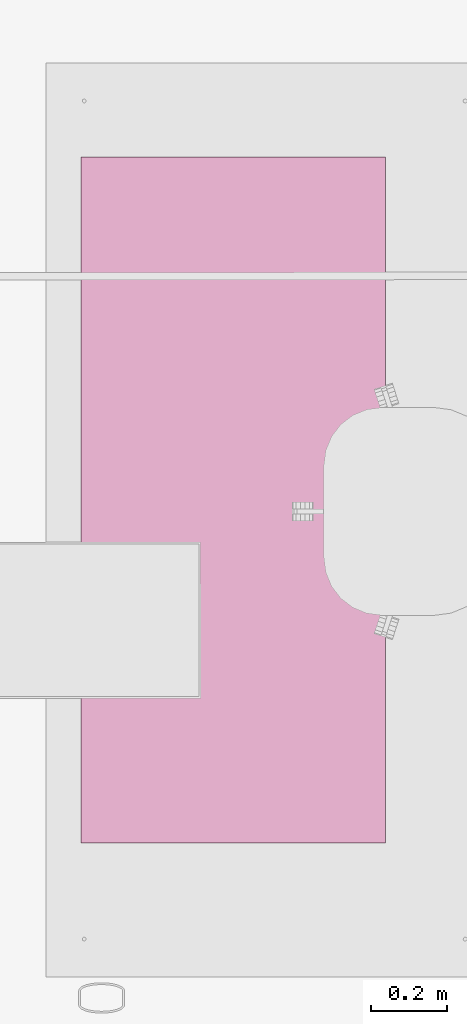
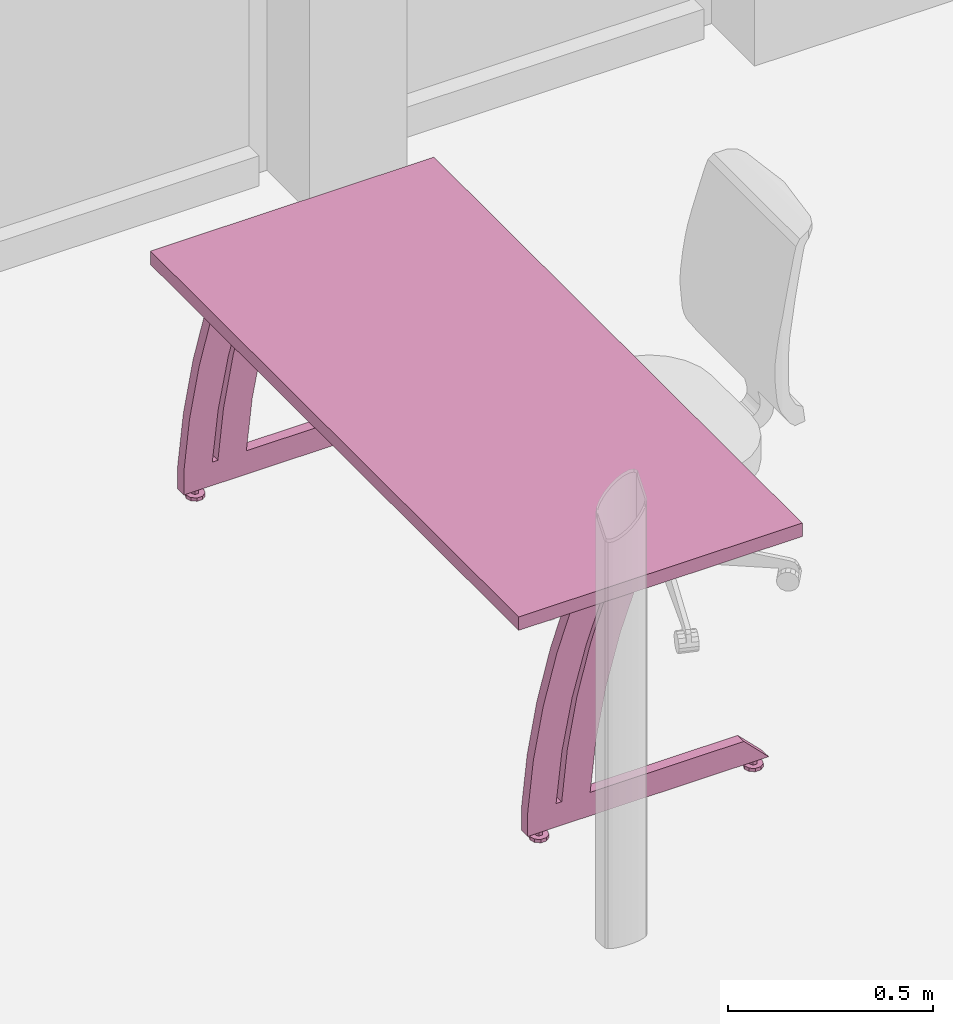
# One storey, part 120 of 128: 1 furnishing.
"""IFC2X3 building model written with IfcOpenShell, lengths in metres."""

from ifc_helpers import new_model, entity, si_unit, converted_unit, derived_unit, direction, frame, origin, place, context, subcontext, project, spatial, faceted_brep, source, transform, mapped, material, type_object, type_shapes, element, save


model = new_model("IFC2X3")

# Units and contexts
model_context = context("Model", 3, precision=1e-05, world=origin(), true_north=direction((6.123031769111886e-17, 1.0)))
body_context = subcontext(model_context, "Body", "Model", "MODEL_VIEW")
ifc_project = project(units=[si_unit("LENGTHUNIT", "METRE"), si_unit("AREAUNIT", "SQUARE_METRE"), converted_unit("PLANEANGLEUNIT", "DEGREE", entity("IfcPlaneAngleMeasure", 0.017453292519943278), si_unit("PLANEANGLEUNIT", "RADIAN"), dimensions=[0, 0, 0, 0, 0, 0, 0]), derived_unit("THERMALTRANSMITTANCEUNIT", [(si_unit("MASSUNIT", "GRAM", prefix="KILO"), 1), (si_unit("THERMODYNAMICTEMPERATUREUNIT", "KELVIN"), -1), (si_unit("TIMEUNIT", "SECOND"), -3)])], contexts=[model_context])

# Site, building, storey
site_placement = place(None, origin())
site = spatial("IfcSite", under=ifc_project, at=site_placement, Name="Default", CompositionType="ELEMENT")
building_placement = place(site_placement, origin())
building = spatial("IfcBuilding", under=site, at=building_placement, CompositionType="ELEMENT")
storey_placement = place(building_placement, origin())
storey = spatial("IfcBuildingStorey", under=building, at=storey_placement, Name="00_RDC CAF", CompositionType="ELEMENT", Elevation=2.4982504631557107e-13)

# Furnishing
ifc_material = material(Name="ARC - Mo - Blanc")
furniture_type = type_object("IfcFurnitureType", Name="Mo_Bureau:Mo_Bureau_1800x800mm", AssemblyPlace="NOTDEFINED", material=ifc_material)
shared_shape = source(origin(), body_context, "Body", "Brep", [
    faceted_brep([(0.05999999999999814, -0.6962325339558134, 0.0), (0.03622358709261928, -0.6885071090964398, 0.0), (0.04076447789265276, -0.6822571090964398, 0.0), (0.04530536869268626, -0.6760071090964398, 0.0), (0.05265268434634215, -0.6736198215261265, 0.0), (0.059999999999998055, -0.6712325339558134, 0.0), (0.06734731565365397, -0.6736198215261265, 0.0), (0.03622358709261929, -0.6962325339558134, 0.0), (0.03622358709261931, -0.7039579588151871, 0.0), (0.04076447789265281, -0.7102079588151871, 0.0), (0.045305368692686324, -0.7164579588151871, 0.0), (0.05265268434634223, -0.7188452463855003, 0.0), (0.05999999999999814, -0.7212325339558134, 0.0), (0.07469463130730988, -0.6760071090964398, 0.0), (0.07923552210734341, -0.6822571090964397, 0.0), (0.08377641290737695, -0.6885071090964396, 0.0), (0.08377641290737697, -0.6962325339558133, 0.0), (0.0673473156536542, -0.7188452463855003, 0.0), (0.07469463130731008, -0.716457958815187, 0.0), (0.07923552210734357, -0.7102079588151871, 0.0), (0.08377641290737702, -0.703957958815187, 0.0), (0.05999999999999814, -0.6962325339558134, 0.024999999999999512), (0.0599999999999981, -0.6862325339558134, 0.024999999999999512), (0.05133974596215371, -0.6912325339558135, 0.024999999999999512), (0.05133974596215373, -0.7012325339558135, 0.024999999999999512), (0.05999999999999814, -0.7062325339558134, 0.024999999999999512), (0.06866025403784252, -0.6912325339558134, 0.024999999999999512), (0.06866025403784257, -0.7012325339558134, 0.024999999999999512), (0.05133974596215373, -0.7012325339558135, 0.010000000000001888), (0.05999999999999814, -0.7062325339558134, 0.010000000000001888), (0.05133974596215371, -0.6912325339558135, 0.010000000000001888), (0.05999999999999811, -0.6862325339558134, 0.010000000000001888), (0.06866025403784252, -0.6912325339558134, 0.010000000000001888), (0.06866025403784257, -0.7012325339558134, 0.010000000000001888), (0.05999999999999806, -0.6712325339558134, 0.010000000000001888), (0.0555460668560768, -0.6726797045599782, 0.010000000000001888), (0.051092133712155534, -0.6741268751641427, 0.010000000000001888), (0.04530536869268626, -0.6760071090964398, 0.010000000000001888), (0.06734731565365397, -0.6736198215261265, 0.010000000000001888), (0.07469463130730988, -0.6760071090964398, 0.010000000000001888), (0.07923552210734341, -0.6822571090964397, 0.010000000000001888), (0.08377641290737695, -0.6885071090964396, 0.010000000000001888), (0.08377641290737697, -0.6962325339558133, 0.010000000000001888), (0.08377641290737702, -0.703957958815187, 0.010000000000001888), (0.07923552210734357, -0.7102079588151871, 0.010000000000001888), (0.07469463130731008, -0.716457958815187, 0.010000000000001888), (0.06890786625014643, -0.7183381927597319, 0.010000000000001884), (0.06445393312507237, -0.7197853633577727, 0.010000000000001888), (0.05999999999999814, -0.7212325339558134, 0.010000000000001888), (0.05265268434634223, -0.7188452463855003, 0.010000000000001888), (0.045305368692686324, -0.7164579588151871, 0.010000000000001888), (0.03622358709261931, -0.7039579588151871, 0.010000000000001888), (0.04076447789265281, -0.7102079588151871, 0.010000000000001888), (0.04076447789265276, -0.6822571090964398, 0.010000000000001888), (0.03622358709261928, -0.6885071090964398, 0.010000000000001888), (0.03622358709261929, -0.6962325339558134, 0.010000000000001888)], [[[0, 1, 2]], [[0, 2, 3]], [[0, 3, 4]], [[0, 4, 5]], [[0, 5, 6]], [[0, 7, 1]], [[0, 8, 7]], [[0, 9, 8]], [[0, 10, 9]], [[0, 11, 10]], [[0, 12, 11]], [[0, 6, 13]], [[0, 13, 14]], [[0, 14, 15]], [[0, 15, 16]], [[0, 17, 12]], [[0, 18, 17]], [[0, 19, 18]], [[0, 20, 19]], [[0, 16, 20]], [[21, 22, 23]], [[23, 24, 21]], [[24, 25, 21]], [[21, 26, 22]], [[25, 27, 21]], [[26, 21, 27]], [[25, 24, 28, 29]], [[24, 23, 30, 28]], [[23, 22, 31, 30]], [[22, 26, 32, 31]], [[26, 27, 33, 32]], [[27, 25, 29, 33]], [[31, 34, 35]], [[31, 35, 36]], [[31, 36, 37]], [[31, 37, 30]], [[31, 38, 34]], [[31, 39, 38]], [[32, 39, 31]], [[32, 40, 39]], [[32, 41, 40]], [[32, 42, 41]], [[32, 43, 42]], [[32, 33, 43]], [[33, 44, 43]], [[33, 45, 44]], [[33, 29, 45]], [[29, 46, 45]], [[29, 47, 46]], [[29, 48, 47]], [[29, 49, 48]], [[29, 50, 49]], [[29, 28, 50]], [[30, 51, 28]], [[28, 51, 52]], [[28, 52, 50]], [[30, 37, 53]], [[30, 53, 54]], [[30, 54, 55]], [[30, 55, 51]], [[11, 12, 48, 49, 50, 10]], [[8, 9, 10, 50, 52, 51]], [[7, 8, 51, 55, 54, 1]], [[3, 37, 36, 35, 34, 5, 4]], [[54, 53, 37, 3, 2, 1]], [[6, 5, 34, 38, 39, 13]], [[15, 14, 13, 39, 40, 41]], [[16, 15, 41, 42, 43, 20]], [[18, 45, 46, 47, 48, 12, 17]], [[43, 44, 45, 18, 19, 20]]]),
    faceted_brep([(0.05999999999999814, -0.09132706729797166, 0.0), (0.03622358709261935, -0.08360164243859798, 0.0), (0.04076447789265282, -0.07735164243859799, 0.0), (0.0453053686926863, -0.07110164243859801, 0.0), (0.05265268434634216, -0.06871435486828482, 0.0), (0.059999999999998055, -0.06632706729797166, 0.0), (0.06734731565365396, -0.06871435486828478, 0.0), (0.03622358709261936, -0.09132706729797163, 0.0), (0.03622358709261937, -0.09905249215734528, 0.0), (0.04076447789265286, -0.10530249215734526, 0.0), (0.04530536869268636, -0.11155249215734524, 0.0), (0.05265268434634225, -0.11393977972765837, 0.0), (0.05999999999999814, -0.11632706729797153, 0.0), (0.07469463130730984, -0.0711016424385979, 0.0), (0.07923552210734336, -0.07735164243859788, 0.0), (0.08377641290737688, -0.08360164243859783, 0.0), (0.0837764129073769, -0.09132706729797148, 0.0), (0.06734731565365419, -0.11393977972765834, 0.0), (0.07469463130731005, -0.11155249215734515, 0.0), (0.07923552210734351, -0.10530249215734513, 0.0), (0.08377641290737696, -0.09905249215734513, 0.0), (0.05999999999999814, -0.09132706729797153, 0.024999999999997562), (0.0599999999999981, -0.08132706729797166, 0.024999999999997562), (0.05133974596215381, -0.08632706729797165, 0.024999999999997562), (0.05133974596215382, -0.09632706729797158, 0.024999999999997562), (0.05999999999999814, -0.10132706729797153, 0.024999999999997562), (0.06866025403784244, -0.0863270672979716, 0.024999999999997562), (0.06866025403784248, -0.09632706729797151, 0.024999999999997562), (0.05133974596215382, -0.09632706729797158, 0.009999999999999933), (0.05999999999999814, -0.10132706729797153, 0.009999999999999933), (0.05133974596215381, -0.08632706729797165, 0.009999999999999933), (0.05999999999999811, -0.08132706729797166, 0.009999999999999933), (0.06866025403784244, -0.0863270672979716, 0.009999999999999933), (0.06866025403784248, -0.09632706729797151, 0.009999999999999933), (0.05999999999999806, -0.06632706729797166, 0.009999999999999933), (0.055546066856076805, -0.06777423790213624, 0.00999999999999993), (0.051092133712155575, -0.06922140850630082, 0.00999999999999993), (0.0453053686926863, -0.07110164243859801, 0.009999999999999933), (0.06734731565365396, -0.06871435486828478, 0.00999999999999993), (0.07469463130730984, -0.0711016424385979, 0.009999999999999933), (0.07923552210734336, -0.07735164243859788, 0.00999999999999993), (0.08377641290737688, -0.08360164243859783, 0.009999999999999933), (0.0837764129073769, -0.09132706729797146, 0.00999999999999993), (0.08377641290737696, -0.09905249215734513, 0.009999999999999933), (0.07923552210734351, -0.10530249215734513, 0.00999999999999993), (0.07469463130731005, -0.11155249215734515, 0.009999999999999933), (0.0689078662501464, -0.11343272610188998, 0.00999999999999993), (0.06445393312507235, -0.11487989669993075, 0.00999999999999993), (0.05999999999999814, -0.11632706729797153, 0.009999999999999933), (0.05265268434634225, -0.11393977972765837, 0.00999999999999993), (0.04530536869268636, -0.11155249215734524, 0.009999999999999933), (0.03622358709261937, -0.09905249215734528, 0.009999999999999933), (0.04076447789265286, -0.10530249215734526, 0.00999999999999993), (0.04076447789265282, -0.07735164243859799, 0.00999999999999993), (0.03622358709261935, -0.08360164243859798, 0.009999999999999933), (0.03622358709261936, -0.09132706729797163, 0.00999999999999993)], [[[0, 1, 2]], [[0, 2, 3]], [[0, 3, 4]], [[0, 4, 5]], [[0, 5, 6]], [[0, 7, 1]], [[0, 8, 7]], [[0, 9, 8]], [[0, 10, 9]], [[0, 11, 10]], [[0, 12, 11]], [[0, 6, 13]], [[0, 13, 14]], [[0, 14, 15]], [[0, 15, 16]], [[0, 17, 12]], [[0, 18, 17]], [[0, 19, 18]], [[0, 20, 19]], [[0, 16, 20]], [[21, 22, 23]], [[23, 24, 21]], [[24, 25, 21]], [[21, 26, 22]], [[25, 27, 21]], [[26, 21, 27]], [[25, 24, 28, 29]], [[24, 23, 30, 28]], [[23, 22, 31, 30]], [[22, 26, 32, 31]], [[26, 27, 33, 32]], [[27, 25, 29, 33]], [[31, 34, 35]], [[31, 35, 36]], [[31, 36, 37]], [[31, 37, 30]], [[31, 38, 34]], [[31, 39, 38]], [[32, 39, 31]], [[32, 40, 39]], [[32, 41, 40]], [[32, 42, 41]], [[32, 43, 42]], [[32, 33, 43]], [[33, 44, 43]], [[33, 45, 44]], [[33, 29, 45]], [[29, 46, 45]], [[29, 47, 46]], [[29, 48, 47]], [[29, 49, 48]], [[29, 50, 49]], [[29, 28, 50]], [[30, 51, 28]], [[28, 51, 52]], [[28, 52, 50]], [[30, 37, 53]], [[30, 53, 54]], [[30, 54, 55]], [[30, 55, 51]], [[11, 12, 48, 49, 50, 10]], [[8, 9, 10, 50, 52, 51]], [[7, 8, 51, 55, 54, 1]], [[3, 37, 36, 35, 34, 5, 4]], [[54, 53, 37, 3, 2, 1]], [[6, 5, 34, 38, 39, 13]], [[15, 14, 13, 39, 40, 41]], [[16, 15, 41, 42, 43, 20]], [[18, 45, 46, 47, 48, 12, 17]], [[43, 44, 45, 18, 19, 20]]]),
    faceted_brep([(0.04499999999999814, -0.22742160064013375, 0.09500000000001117), (0.04499999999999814, -0.24409269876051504, 0.24614112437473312), (0.04499999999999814, -0.2727144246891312, 0.3954808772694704), (0.04499999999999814, -0.313105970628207, 0.542075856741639), (0.04499999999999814, -0.36501217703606, 0.684999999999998), (0.04499999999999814, -0.27887211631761, 0.6849999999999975), (0.04499999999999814, -0.22919246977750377, 0.5416912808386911), (0.04499999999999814, -0.19055436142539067, 0.39501969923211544), (0.04499999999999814, -0.1631815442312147, 0.24583462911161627), (0.04499999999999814, -0.14723253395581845, 0.09500000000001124), (0.07499999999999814, -0.3650121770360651, 0.6850000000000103), (0.07499999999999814, -0.313105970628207, 0.542075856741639), (0.07499999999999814, -0.2727144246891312, 0.3954808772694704), (0.07499999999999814, -0.24409269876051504, 0.24614112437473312), (0.07499999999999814, -0.22742160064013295, 0.09499999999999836), (0.07499999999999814, -0.14723253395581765, 0.09499999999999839), (0.07499999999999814, -0.1631815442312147, 0.24583462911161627), (0.07499999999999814, -0.19055436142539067, 0.39501969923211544), (0.07499999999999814, -0.22919246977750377, 0.5416912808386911), (0.07499999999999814, -0.2788721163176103, 0.684999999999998)], [[[0, 1, 2, 3, 4, 5, 6, 7, 8, 9]], [[10, 11, 12, 13, 14, 15, 16, 17, 18, 19]], [[10, 19, 5, 4]], [[3, 11, 10, 4]], [[2, 12, 11, 3]], [[0, 14, 13, 1]], [[12, 2, 1, 13]], [[15, 14, 0, 9]], [[8, 7, 17, 16]], [[15, 9, 8, 16]], [[6, 5, 19, 18]], [[6, 18, 17, 7]]]),
    faceted_brep([(0.04499999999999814, -0.1314216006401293, 0.09500000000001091), (0.04499999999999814, -0.1480926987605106, 0.24614112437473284), (0.04499999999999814, -0.17671442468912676, 0.3954808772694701), (0.04499999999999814, -0.21710597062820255, 0.5420758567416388), (0.04499999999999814, -0.2690121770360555, 0.6849999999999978), (0.04499999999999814, -0.18287211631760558, 0.6849999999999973), (0.04499999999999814, -0.13319246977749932, 0.5416912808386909), (0.04499999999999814, -0.09455436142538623, 0.39501969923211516), (0.04499999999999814, -0.06718154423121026, 0.24583462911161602), (0.04499999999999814, -0.05123253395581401, 0.09500000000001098), (0.07499999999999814, -0.2690121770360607, 0.6850000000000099), (0.07499999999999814, -0.21710597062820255, 0.5420758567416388), (0.07499999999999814, -0.17671442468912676, 0.3954808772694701), (0.07499999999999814, -0.1480926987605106, 0.24614112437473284), (0.07499999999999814, -0.1314216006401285, 0.09499999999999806), (0.07499999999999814, -0.051232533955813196, 0.09499999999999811), (0.07499999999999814, -0.06718154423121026, 0.24583462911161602), (0.07499999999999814, -0.09455436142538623, 0.39501969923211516), (0.07499999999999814, -0.13319246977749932, 0.5416912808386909), (0.07499999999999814, -0.18287211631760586, 0.6849999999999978)], [[[0, 1, 2, 3, 4, 5, 6, 7, 8, 9]], [[10, 11, 12, 13, 14, 15, 16, 17, 18, 19]], [[10, 19, 5, 4]], [[3, 11, 10, 4]], [[2, 12, 11, 3]], [[0, 14, 13, 1]], [[12, 2, 1, 13]], [[15, 14, 0, 9]], [[8, 7, 17, 16]], [[15, 9, 8, 16]], [[6, 5, 19, 18]], [[6, 18, 17, 7]]]),
    faceted_brep([(0.04499999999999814, -0.05123253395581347, 0.024999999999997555), (0.04499999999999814, -0.7312325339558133, 0.024999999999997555), (0.04499999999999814, -0.6612325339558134, 0.09499999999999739), (0.04499999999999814, -0.05123253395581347, 0.09499999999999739), (0.07499999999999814, -0.05123253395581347, 0.024999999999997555), (0.07499999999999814, -0.05123253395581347, 0.09499999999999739), (0.07499999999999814, -0.6612325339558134, 0.09499999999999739), (0.07499999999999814, -0.7312325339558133, 0.024999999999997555)], [[[0, 1, 2, 3]], [[4, 5, 6, 7]], [[5, 4, 0, 3]], [[6, 5, 3, 2]], [[4, 7, 1, 0]], [[7, 6, 2, 1]]]),
    faceted_brep([(1.7399999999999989, -0.6962325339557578, 0.0), (1.7162235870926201, -0.6885071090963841, 0.0), (1.7207644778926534, -0.682257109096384, 0.0), (1.725305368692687, -0.6760071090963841, 0.0), (1.732652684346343, -0.6736198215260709, 0.0), (1.7399999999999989, -0.6712325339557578, 0.0), (1.7473473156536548, -0.6736198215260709, 0.0), (1.7162235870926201, -0.6962325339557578, 0.0), (1.7162235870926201, -0.7039579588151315, 0.0), (1.7207644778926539, -0.7102079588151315, 0.0), (1.7253053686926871, -0.7164579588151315, 0.0), (1.732652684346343, -0.7188452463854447, 0.0), (1.7399999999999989, -0.7212325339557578, 0.0), (1.7546946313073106, -0.6760071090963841, 0.0), (1.759235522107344, -0.682257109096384, 0.0), (1.7637764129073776, -0.688507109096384, 0.0), (1.7637764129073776, -0.6962325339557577, 0.0), (1.747347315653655, -0.7188452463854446, 0.0), (1.7546946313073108, -0.7164579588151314, 0.0), (1.7592355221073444, -0.7102079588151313, 0.0), (1.7637764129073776, -0.7039579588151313, 0.0), (1.7399999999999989, -0.6962325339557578, 0.024999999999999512), (1.7399999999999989, -0.6862325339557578, 0.024999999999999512), (1.7313397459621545, -0.6912325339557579, 0.024999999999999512), (1.7313397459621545, -0.7012325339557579, 0.024999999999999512), (1.7399999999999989, -0.7062325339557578, 0.024999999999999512), (1.7486602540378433, -0.6912325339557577, 0.024999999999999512), (1.7486602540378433, -0.7012325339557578, 0.024999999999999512), (1.7313397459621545, -0.7012325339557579, 0.010000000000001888), (1.7399999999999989, -0.7062325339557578, 0.010000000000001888), (1.7313397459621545, -0.6912325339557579, 0.010000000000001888), (1.7399999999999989, -0.6862325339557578, 0.010000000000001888), (1.7486602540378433, -0.6912325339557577, 0.010000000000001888), (1.7486602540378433, -0.7012325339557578, 0.010000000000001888), (1.7399999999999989, -0.6712325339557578, 0.010000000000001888), (1.7355460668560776, -0.6726797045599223, 0.010000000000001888), (1.7310921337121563, -0.6741268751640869, 0.010000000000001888), (1.725305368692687, -0.6760071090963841, 0.010000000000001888), (1.7473473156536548, -0.6736198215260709, 0.010000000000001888), (1.7546946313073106, -0.6760071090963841, 0.010000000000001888), (1.759235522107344, -0.682257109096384, 0.010000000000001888), (1.7637764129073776, -0.688507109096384, 0.010000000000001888), (1.7637764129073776, -0.6962325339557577, 0.010000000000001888), (1.7637764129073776, -0.7039579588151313, 0.010000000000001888), (1.7592355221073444, -0.7102079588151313, 0.010000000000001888), (1.7546946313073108, -0.7164579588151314, 0.010000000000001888), (1.7489078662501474, -0.7183381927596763, 0.010000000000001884), (1.7444539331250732, -0.719785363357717, 0.010000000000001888), (1.7399999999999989, -0.7212325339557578, 0.010000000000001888), (1.732652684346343, -0.7188452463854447, 0.010000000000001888), (1.7253053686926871, -0.7164579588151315, 0.010000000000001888), (1.7162235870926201, -0.7039579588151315, 0.010000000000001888), (1.7207644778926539, -0.7102079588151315, 0.010000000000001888), (1.7207644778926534, -0.682257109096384, 0.010000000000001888), (1.7162235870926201, -0.6885071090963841, 0.010000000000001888), (1.7162235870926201, -0.6962325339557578, 0.010000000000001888)], [[[0, 1, 2]], [[0, 2, 3]], [[0, 3, 4]], [[0, 4, 5]], [[0, 5, 6]], [[0, 7, 1]], [[0, 8, 7]], [[0, 9, 8]], [[0, 10, 9]], [[0, 11, 10]], [[0, 12, 11]], [[0, 6, 13]], [[0, 13, 14]], [[0, 14, 15]], [[0, 15, 16]], [[0, 17, 12]], [[0, 18, 17]], [[0, 19, 18]], [[0, 20, 19]], [[0, 16, 20]], [[21, 22, 23]], [[23, 24, 21]], [[24, 25, 21]], [[21, 26, 22]], [[25, 27, 21]], [[26, 21, 27]], [[25, 24, 28, 29]], [[24, 23, 30, 28]], [[23, 22, 31, 30]], [[22, 26, 32, 31]], [[26, 27, 33, 32]], [[27, 25, 29, 33]], [[31, 34, 35]], [[31, 35, 36]], [[31, 36, 37]], [[31, 37, 30]], [[31, 38, 34]], [[31, 39, 38]], [[32, 39, 31]], [[32, 40, 39]], [[32, 41, 40]], [[32, 42, 41]], [[32, 43, 42]], [[32, 33, 43]], [[33, 44, 43]], [[33, 45, 44]], [[33, 29, 45]], [[29, 46, 45]], [[29, 47, 46]], [[29, 48, 47]], [[29, 49, 48]], [[29, 50, 49]], [[29, 28, 50]], [[30, 51, 28]], [[28, 51, 52]], [[28, 52, 50]], [[30, 37, 53]], [[30, 53, 54]], [[30, 54, 55]], [[30, 55, 51]], [[11, 12, 48, 49, 50, 10]], [[8, 9, 10, 50, 52, 51]], [[7, 8, 51, 55, 54, 1]], [[3, 37, 36, 35, 34, 5, 4]], [[54, 53, 37, 3, 2, 1]], [[6, 5, 34, 38, 39, 13]], [[15, 14, 13, 39, 40, 41]], [[16, 15, 41, 42, 43, 20]], [[18, 45, 46, 47, 48, 12, 17]], [[43, 44, 45, 18, 19, 20]]]),
    faceted_brep([(1.7399999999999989, -0.09132706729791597, 0.0), (1.7162235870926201, -0.08360164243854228, 0.0), (1.7207644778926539, -0.0773516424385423, 0.0), (1.7253053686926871, -0.0711016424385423, 0.0), (1.732652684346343, -0.06871435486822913, 0.0), (1.7399999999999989, -0.06632706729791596, 0.0), (1.7473473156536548, -0.06871435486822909, 0.0), (1.7162235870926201, -0.09132706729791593, 0.0), (1.7162235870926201, -0.09905249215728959, 0.0), (1.7207644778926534, -0.10530249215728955, 0.0), (1.7253053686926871, -0.11155249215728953, 0.0), (1.732652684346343, -0.11393977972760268, 0.0), (1.7399999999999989, -0.11632706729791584, 0.0), (1.7546946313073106, -0.07110164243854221, 0.0), (1.759235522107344, -0.07735164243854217, 0.0), (1.7637764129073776, -0.08360164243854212, 0.0), (1.7637764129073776, -0.09132706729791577, 0.0), (1.747347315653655, -0.11393977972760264, 0.0), (1.7546946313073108, -0.11155249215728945, 0.0), (1.7592355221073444, -0.10530249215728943, 0.0), (1.7637764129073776, -0.09905249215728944, 0.0), (1.7399999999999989, -0.09132706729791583, 0.024999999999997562), (1.7399999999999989, -0.08132706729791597, 0.024999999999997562), (1.7313397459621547, -0.08632706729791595, 0.024999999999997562), (1.7313397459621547, -0.09632706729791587, 0.024999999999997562), (1.7399999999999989, -0.10132706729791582, 0.024999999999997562), (1.748660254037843, -0.0863270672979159, 0.024999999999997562), (1.748660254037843, -0.0963270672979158, 0.024999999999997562), (1.7313397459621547, -0.09632706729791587, 0.009999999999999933), (1.7399999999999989, -0.10132706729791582, 0.009999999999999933), (1.7313397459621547, -0.08632706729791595, 0.009999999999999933), (1.7399999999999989, -0.08132706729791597, 0.009999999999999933), (1.748660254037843, -0.0863270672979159, 0.009999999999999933), (1.748660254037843, -0.0963270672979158, 0.009999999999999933), (1.7399999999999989, -0.06632706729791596, 0.009999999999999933), (1.7355460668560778, -0.06777423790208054, 0.00999999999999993), (1.7310921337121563, -0.06922140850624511, 0.00999999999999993), (1.7253053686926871, -0.0711016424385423, 0.009999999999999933), (1.7473473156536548, -0.06871435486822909, 0.00999999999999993), (1.7546946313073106, -0.07110164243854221, 0.009999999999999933), (1.759235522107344, -0.07735164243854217, 0.00999999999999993), (1.7637764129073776, -0.08360164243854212, 0.009999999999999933), (1.7637764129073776, -0.09132706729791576, 0.00999999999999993), (1.7637764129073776, -0.09905249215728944, 0.009999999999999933), (1.7592355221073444, -0.10530249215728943, 0.00999999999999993), (1.7546946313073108, -0.11155249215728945, 0.009999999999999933), (1.7489078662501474, -0.11343272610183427, 0.00999999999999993), (1.7444539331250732, -0.11487989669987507, 0.00999999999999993), (1.7399999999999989, -0.11632706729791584, 0.009999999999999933), (1.732652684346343, -0.11393977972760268, 0.00999999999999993), (1.7253053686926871, -0.11155249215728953, 0.009999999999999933), (1.7162235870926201, -0.09905249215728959, 0.009999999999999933), (1.7207644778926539, -0.10530249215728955, 0.00999999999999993), (1.7207644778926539, -0.0773516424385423, 0.00999999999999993), (1.7162235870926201, -0.08360164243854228, 0.009999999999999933), (1.7162235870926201, -0.09132706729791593, 0.00999999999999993)], [[[0, 1, 2]], [[0, 2, 3]], [[0, 3, 4]], [[0, 4, 5]], [[0, 5, 6]], [[0, 7, 1]], [[0, 8, 7]], [[0, 9, 8]], [[0, 10, 9]], [[0, 11, 10]], [[0, 12, 11]], [[0, 6, 13]], [[0, 13, 14]], [[0, 14, 15]], [[0, 15, 16]], [[0, 17, 12]], [[0, 18, 17]], [[0, 19, 18]], [[0, 20, 19]], [[0, 16, 20]], [[21, 22, 23]], [[23, 24, 21]], [[24, 25, 21]], [[21, 26, 22]], [[25, 27, 21]], [[26, 21, 27]], [[25, 24, 28, 29]], [[24, 23, 30, 28]], [[23, 22, 31, 30]], [[22, 26, 32, 31]], [[26, 27, 33, 32]], [[27, 25, 29, 33]], [[31, 34, 35]], [[31, 35, 36]], [[31, 36, 37]], [[31, 37, 30]], [[31, 38, 34]], [[31, 39, 38]], [[32, 39, 31]], [[32, 40, 39]], [[32, 41, 40]], [[32, 42, 41]], [[32, 43, 42]], [[32, 33, 43]], [[33, 44, 43]], [[33, 45, 44]], [[33, 29, 45]], [[29, 46, 45]], [[29, 47, 46]], [[29, 48, 47]], [[29, 49, 48]], [[29, 50, 49]], [[29, 28, 50]], [[30, 51, 28]], [[28, 51, 52]], [[28, 52, 50]], [[30, 37, 53]], [[30, 53, 54]], [[30, 54, 55]], [[30, 55, 51]], [[11, 12, 48, 49, 50, 10]], [[8, 9, 10, 50, 52, 51]], [[7, 8, 51, 55, 54, 1]], [[3, 37, 36, 35, 34, 5, 4]], [[54, 53, 37, 3, 2, 1]], [[6, 5, 34, 38, 39, 13]], [[15, 14, 13, 39, 40, 41]], [[16, 15, 41, 42, 43, 20]], [[18, 45, 46, 47, 48, 12, 17]], [[43, 44, 45, 18, 19, 20]]]),
    faceted_brep([(1.7249999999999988, -0.22742160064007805, 0.09500000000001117), (1.7249999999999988, -0.24409269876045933, 0.24614112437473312), (1.7249999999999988, -0.27271442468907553, 0.3954808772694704), (1.7249999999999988, -0.31310597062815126, 0.542075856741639), (1.7249999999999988, -0.36501217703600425, 0.684999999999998), (1.7249999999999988, -0.2788721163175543, 0.6849999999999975), (1.7249999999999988, -0.22919246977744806, 0.5416912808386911), (1.7249999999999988, -0.19055436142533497, 0.39501969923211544), (1.7249999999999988, -0.163181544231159, 0.24583462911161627), (1.7249999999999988, -0.14723253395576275, 0.09500000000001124), (1.754999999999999, -0.3650121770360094, 0.6850000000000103), (1.754999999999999, -0.31310597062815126, 0.542075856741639), (1.754999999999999, -0.27271442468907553, 0.3954808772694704), (1.754999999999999, -0.24409269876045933, 0.24614112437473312), (1.754999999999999, -0.22742160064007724, 0.09499999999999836), (1.754999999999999, -0.14723253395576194, 0.09499999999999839), (1.754999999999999, -0.163181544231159, 0.24583462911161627), (1.754999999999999, -0.19055436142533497, 0.39501969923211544), (1.754999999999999, -0.22919246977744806, 0.5416912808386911), (1.754999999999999, -0.2788721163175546, 0.684999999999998)], [[[0, 1, 2, 3, 4, 5, 6, 7, 8, 9]], [[10, 11, 12, 13, 14, 15, 16, 17, 18, 19]], [[10, 19, 5, 4]], [[3, 11, 10, 4]], [[2, 12, 11, 3]], [[0, 14, 13, 1]], [[12, 2, 1, 13]], [[15, 14, 0, 9]], [[8, 7, 17, 16]], [[15, 9, 8, 16]], [[6, 5, 19, 18]], [[6, 18, 17, 7]]]),
    faceted_brep([(1.7249999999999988, -0.13142160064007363, 0.09500000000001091), (1.7249999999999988, -0.1480926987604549, 0.24614112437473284), (1.7249999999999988, -0.17671442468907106, 0.3954808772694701), (1.7249999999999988, -0.21710597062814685, 0.5420758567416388), (1.7249999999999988, -0.26901217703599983, 0.6849999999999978), (1.7249999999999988, -0.18287211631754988, 0.6849999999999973), (1.7249999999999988, -0.13319246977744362, 0.5416912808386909), (1.7249999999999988, -0.09455436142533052, 0.39501969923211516), (1.7249999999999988, -0.06718154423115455, 0.24583462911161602), (1.7249999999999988, -0.05123253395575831, 0.09500000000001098), (1.754999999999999, -0.26901217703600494, 0.6850000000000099), (1.754999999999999, -0.21710597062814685, 0.5420758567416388), (1.754999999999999, -0.17671442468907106, 0.3954808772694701), (1.754999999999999, -0.1480926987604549, 0.24614112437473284), (1.754999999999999, -0.1314216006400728, 0.09499999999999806), (1.754999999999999, -0.0512325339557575, 0.09499999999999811), (1.754999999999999, -0.06718154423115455, 0.24583462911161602), (1.754999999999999, -0.09455436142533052, 0.39501969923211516), (1.754999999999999, -0.13319246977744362, 0.5416912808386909), (1.754999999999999, -0.18287211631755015, 0.6849999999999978)], [[[0, 1, 2, 3, 4, 5, 6, 7, 8, 9]], [[10, 11, 12, 13, 14, 15, 16, 17, 18, 19]], [[10, 19, 5, 4]], [[3, 11, 10, 4]], [[2, 12, 11, 3]], [[0, 14, 13, 1]], [[12, 2, 1, 13]], [[15, 14, 0, 9]], [[8, 7, 17, 16]], [[15, 9, 8, 16]], [[6, 5, 19, 18]], [[6, 18, 17, 7]]]),
    faceted_brep([(1.7249999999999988, -0.05123253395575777, 0.024999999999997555), (1.7249999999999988, -0.7312325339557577, 0.024999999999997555), (1.7249999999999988, -0.6612325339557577, 0.09499999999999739), (1.7249999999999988, -0.05123253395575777, 0.09499999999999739), (1.754999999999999, -0.05123253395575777, 0.024999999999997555), (1.754999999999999, -0.05123253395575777, 0.09499999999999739), (1.754999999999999, -0.6612325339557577, 0.09499999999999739), (1.754999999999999, -0.7312325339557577, 0.024999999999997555)], [[[0, 1, 2, 3]], [[4, 5, 6, 7]], [[5, 4, 0, 3]], [[6, 5, 3, 2]], [[4, 7, 1, 0]], [[7, 6, 2, 1]]]),
    faceted_brep([(0.0, -0.7999999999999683, 0.685), (0.0, 0.0, 0.685), (1.7999999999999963, 0.0, 0.6849999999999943), (1.7999999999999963, -0.7999999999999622, 0.6849999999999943), (0.0, -0.7999999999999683, 0.7250000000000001), (1.7999999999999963, -0.7999999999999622, 0.7249999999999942), (1.7999999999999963, 0.0, 0.7249999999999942), (0.0, 0.0, 0.7250000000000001)], [[[0, 1, 2, 3]], [[4, 5, 6, 7]], [[5, 4, 0, 3]], [[6, 5, 3, 2]], [[7, 6, 2, 1]], [[4, 7, 1, 0]]]),
])
type_shapes(furniture_type, [shared_shape])
furnishing_placement = place(storey_placement, frame((38.67578543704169, 141.26402153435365, 0.0), z_axis=(0.0, 0.0, 1.0), x_axis=(0.0, 1.0, 0.0)))
element("IfcFurnishingElement", 1, at=furnishing_placement, inside=storey, type_object=furniture_type, material=ifc_material, Name="Mo_Bureau:Mo_Bureau_1800x800mm", ObjectType="Mo_Bureau:Mo_Bureau_1800x800mm", context=body_context, shape_type="MappedRepresentation", body=[
    mapped(shared_shape, transform((0.0, 0.0, 0.0), scale=1.0)),
])

save(model, "model.ifc")
